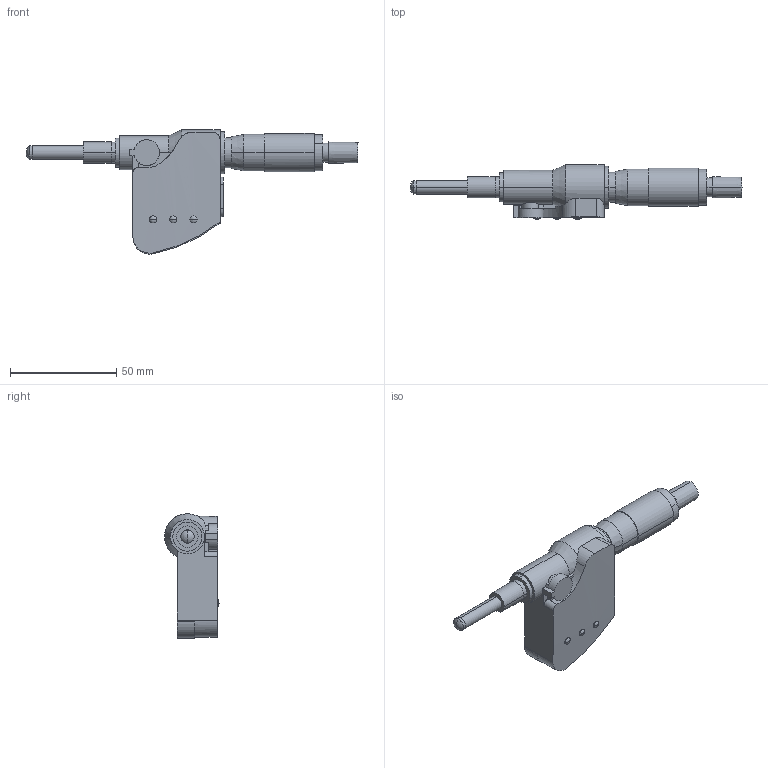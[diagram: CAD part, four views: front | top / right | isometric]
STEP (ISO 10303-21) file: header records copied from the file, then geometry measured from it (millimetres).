
FILE_DESCRIPTION(('Creo Elements/Direct Modeling STEP Export'),'2;1');
FILE_NAME('350_MHN325MX.stp','2020-11-12T 9:35:11',(''),(''),'Creo Elements/Direct Modeling STEP processor for AP214 (Solid Model)','Creo Elements/Direct Modeling 18.1H 24-Oct-2015 (C) Parametric Technology GmbH','');
FILE_SCHEMA(('AUTOMOTIVE_DESIGN { 1 0 10303 214 1 1 1 1 }'));
Length unit declared in the file: millimetre
Products named in the file (2): 350-253-30.1
Assembly tree (1 placements, depth 2):
  350-253-30.1
    350-253-30.1
Bounding box: 156 x 25.78 x 58.44 mm (x, y, z)
Volume: 57314.6 mm3; surface area: 12988.9 mm2
Topology: 1 solids, 1 shells, 100 faces, 246 edges, 157 vertices
Faces by surface type: cylinder 50, plane 33, cone 9, sphere 8
Entity records: 3076 total; most frequent: CARTESIAN_POINT 768, ORIENTED_EDGE 476, DIRECTION 456, EDGE_CURVE 238, AXIS2_PLACEMENT_3D 177, VERTEX_POINT 157, EDGE_LOOP 117, VECTOR 102
